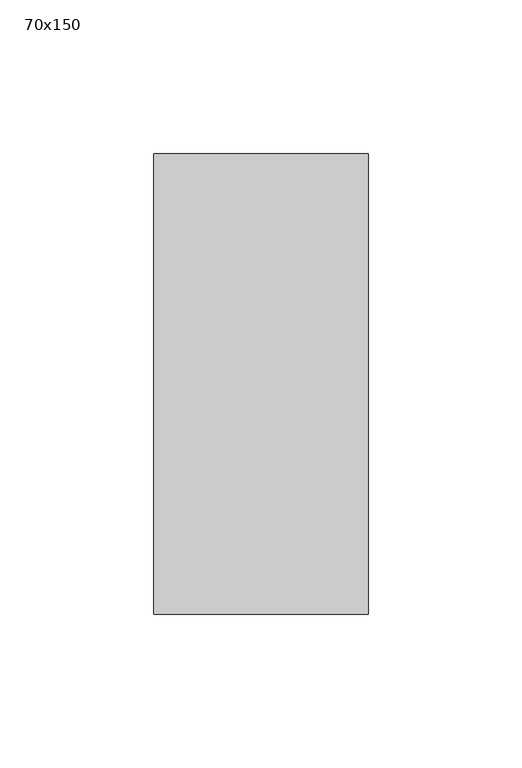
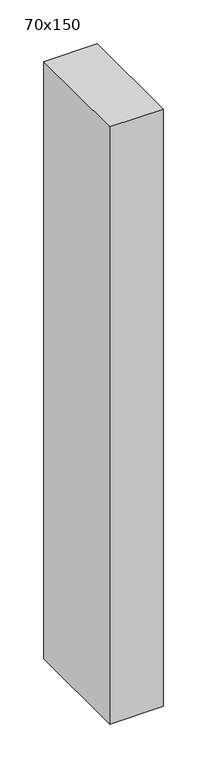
"""IFC4 building model written with IfcOpenShell, lengths in millimetres: member geometry, 長方形のマリオン : 70x150."""

from ifc_helpers import new_model, si_unit, frame, origin, place, context, project, spatial, polyline, outline, extrude, source, transform, mapped, element, save


def member_70x150_ad4265bc(model_context):
    return source(origin(), model_context, "Body", "SweptSolid", [
        extrude(outline(polyline([(35.0, 75.0), (35.0, -75.0), (-35.0, -75.0), (-35.0, 75.0), (35.0, 75.0)])), frame((0.0, 0.0, -830.0), z_axis=(0.0, 0.0, 1.0), x_axis=(1.0, 0.0, 0.0)), (0.0, 0.0, 1.0), 830.0),
    ])


if __name__ == "__main__":
    model = new_model("IFC4")
    model_context = context("Model", 3, world=origin())
    ifc_project = project(units=[si_unit("LENGTHUNIT", "METRE", prefix="MILLI")], contexts=[model_context])
    site = spatial("IfcSite", under=ifc_project)
    building = spatial("IfcBuilding", under=site)
    placement = place(None, origin())
    member_70x150_shape = member_70x150_ad4265bc(model_context)
    element("IfcMember", 1, ObjectType="長方形のマリオン : 70x150", at=placement, inside=building, context=model_context, shape_type="MappedRepresentation", body=[
        mapped(member_70x150_shape, transform((0.0, 0.0, 0.0), x_axis=(1.0, 0.0, 0.0), y_axis=(0.0, 1.0, 0.0), z_axis=(0.0, 0.0, 1.0))),
    ])
    save(model, "model.ifc")
